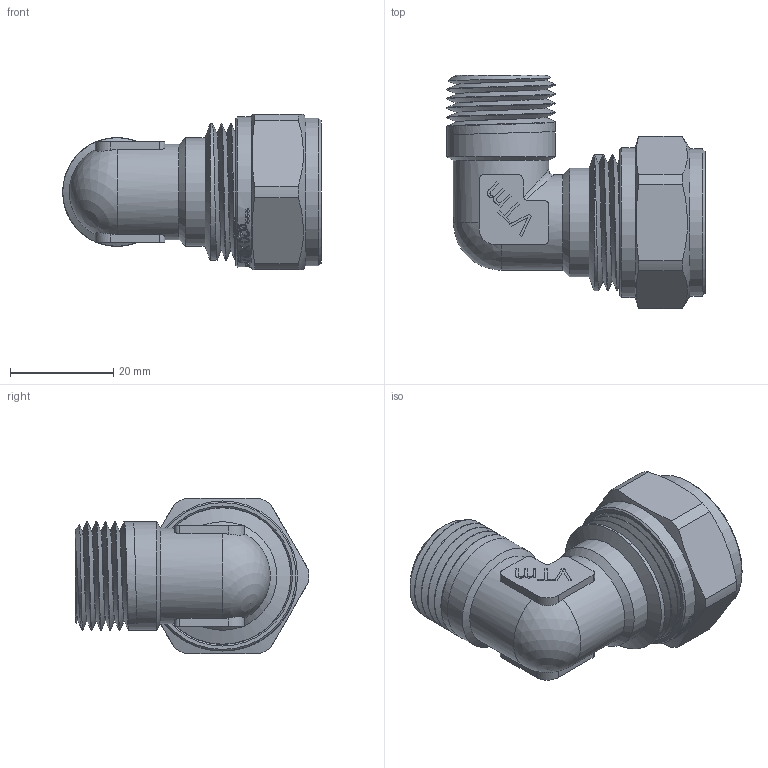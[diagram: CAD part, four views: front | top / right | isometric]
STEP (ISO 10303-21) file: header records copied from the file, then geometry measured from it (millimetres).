
FILE_DESCRIPTION(/* description */ (''),/* implementation_level */ '2;1');
FILE_NAME(/* name */ 'F:\Артём\00000\Работа удаленка\Обжимные фитинги\VTm.353.N.002004.stp',/* time_stamp */ '2020-08-10T13:10:07+03:00',/* author */ ('almis'),/* organization */ (''),/* preprocessor_version */ 'ST-DEVELOPER v18',/* originating_system */ 'Autodesk Inventor 2020',/* authorisation */ '');
FILE_SCHEMA (('AUTOMOTIVE_DESIGN { 1 0 10303 214 3 1 1 }'));
Length unit declared in the file: millimetre
Products named in the file (1): VTm.341.N.202020
Bounding box: 49.98 x 45.21 x 30 mm (x, y, z)
Volume: 15726.5 mm3; surface area: 14129.5 mm2
Topology: 1 solids, 2 shells, 753 faces, 2111 edges, 1419 vertices
Faces by surface type: bspline 371, plane 236, cylinder 104, torus 23, cone 17, sphere 2
Full cylindrical faces by diameter (mm): 11.5 x1, 13.4 x2, 15 x1, 15.75 x4, 17.4 x6, 18.444 x2, 19.986 x4, 20.2 x1, 20.728 x5, 21 x7, 22.8 x3, 23.201 x1, 24.2 x1, 26.4 x3, 28.5 x1, 29 x1
Entity records: 32477 total; most frequent: CARTESIAN_POINT 15378, ORIENTED_EDGE 4218, DIRECTION 2394, EDGE_CURVE 2109, VERTEX_POINT 1419, LINE 960, VECTOR 960, EDGE_LOOP 816
